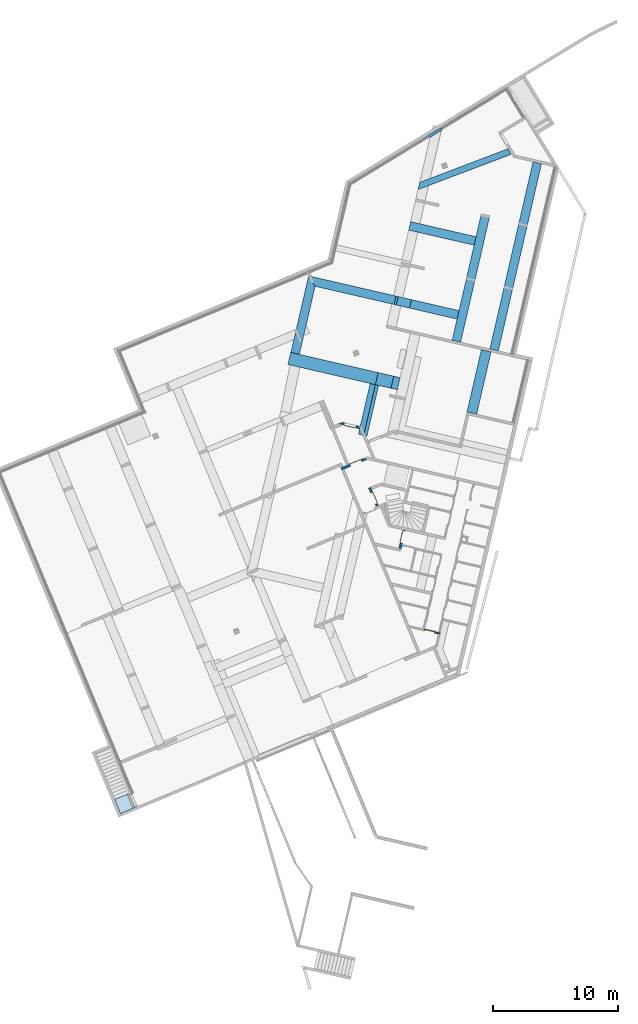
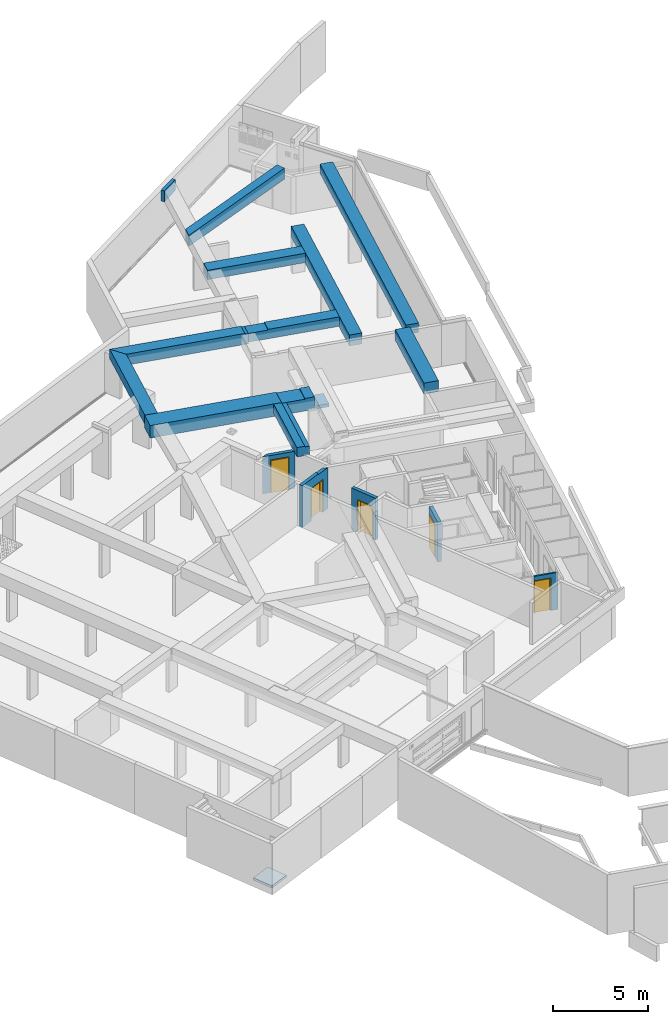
# One storey, part 1 of 20: 11 beams, 5 doors, 5 walls, 1 slab, 5 openings.
"""IFC2X3 building model written with IfcOpenShell, lengths in metres."""

from ifc_helpers import new_model, entity, si_unit, converted_unit, derived_unit, money_unit, direction, frame, origin_with_axes, place, context, subcontext, project, spatial, faceted_brep, source, transform, mapped, material, type_object, element, fill, save


model = new_model("IFC2X3")

# Units and contexts
model_context = context("Model", 3, precision=1e-05, world=origin_with_axes(), true_north=direction((0.0, 1.0)))
body_context = subcontext(model_context, "Body", "Model", "MODEL_VIEW")
ifc_project = project(units=[si_unit("LENGTHUNIT", "METRE"), si_unit("AREAUNIT", "SQUARE_METRE"), si_unit("VOLUMEUNIT", "CUBIC_METRE"), converted_unit("PLANEANGLEUNIT", "DEGREE", entity("IfcPlaneAngleMeasure", 0.0174532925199), si_unit("PLANEANGLEUNIT", "RADIAN"), dimensions=[0, 0, 0, 0, 0, 0, 0]), si_unit("SOLIDANGLEUNIT", "STERADIAN"), money_unit("EUR"), converted_unit("TIMEUNIT", "Year", entity("IfcTimeMeasure", 31556926.0), si_unit("TIMEUNIT", "SECOND"), dimensions=[0, 0, 1, 0, 0, 0, 0]), si_unit("MASSUNIT", "GRAM", prefix="KILO"), si_unit("THERMODYNAMICTEMPERATUREUNIT", "DEGREE_CELSIUS"), si_unit("LUMINOUSINTENSITYUNIT", "LUMEN"), si_unit("ENERGYUNIT", "JOULE", prefix="MEGA"), derived_unit("THERMALCONDUCTANCEUNIT", [(si_unit("POWERUNIT", "WATT"), 1), (si_unit("LENGTHUNIT", "METRE"), -1), (si_unit("THERMODYNAMICTEMPERATUREUNIT", "KELVIN"), -1)]), derived_unit("SPECIFICHEATCAPACITYUNIT", [(si_unit("ENERGYUNIT", "JOULE"), 1), (si_unit("MASSUNIT", "GRAM", prefix="KILO"), -1), (si_unit("THERMODYNAMICTEMPERATUREUNIT", "KELVIN"), -1)]), derived_unit("MASSDENSITYUNIT", [(si_unit("MASSUNIT", "GRAM", prefix="KILO"), 1), (si_unit("VOLUMEUNIT", "CUBIC_METRE"), -1)])], contexts=[model_context])

# Site, building, storey
site_placement = place(None, origin_with_axes())
site = spatial("IfcSite", under=ifc_project, at=site_placement, Name="Site", CompositionType="ELEMENT")
building_placement = place(site_placement, origin_with_axes())
building = spatial("IfcBuilding", under=site, at=building_placement, Name="Bâtiment", CompositionType="ELEMENT")
storey_placement = place(building_placement, frame((0.0, 0.0, -2.9), z_axis=(0.0, 0.0, 1.0), x_axis=(1.0, 0.0, 0.0)))
storey = spatial("IfcBuildingStorey", under=building, at=storey_placement, Name="Sous-sol", CompositionType="ELEMENT", Elevation=-2.9)

# Beams
ifc_material_1 = material(Name="Béton")
beam_type_1 = type_object("IfcBeamType", Name="Béton 700 x 700", PredefinedType="BEAM")
beam_1_placement = place(storey_placement, frame((-1.43509229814, 15.571520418, 2.9), z_axis=(0.0, 0.0, 1.0), x_axis=(-0.974387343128, 0.224876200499, 0.0)))
element("IfcBeam", 1, at=beam_1_placement, inside=storey, type_object=beam_type_1, material=ifc_material_1, Name="PoBA-002", ObjectType="BEAM", context=body_context, shape_type="Brep", body=[
    faceted_brep([(0.35, 10.4069999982, -0.7), (0.35, 0.0, -0.7), (-0.35, 0.0, -0.7), (-0.35, 10.4069999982, -0.7), (0.35, 10.4069999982, 0.0), (0.35, 0.0, 0.0), (-0.35, 0.0, 0.0), (-0.35, 10.4069999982, 0.0)], [[[0, 1, 2, 3]], [[4, 5, 1, 0]], [[1, 5, 6, 2]], [[3, 2, 6, 7]], [[7, 4, 0, 3]], [[7, 6, 5, 4]]]),
])
beam_2_placement = place(storey_placement, frame((-15.3704255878, 10.258411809, 2.9), z_axis=(0.0, 0.0, 1.0), x_axis=(-0.224876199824, -0.974387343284, 0.0)))
element("IfcBeam", 2, at=beam_2_placement, inside=storey, type_object=beam_type_1, material=ifc_material_1, Name="PoBA-002", ObjectType="BEAM", context=body_context, shape_type="Brep", body=[
    faceted_brep([(-0.35, -0.349999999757, 0.0), (-0.35, 6.84643540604, 0.0), (-0.35, 6.84643540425, -0.045), (-0.35, 7.03143540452, -0.045), (-0.35, 7.03143540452, -0.7), (-0.35, -0.349999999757, -0.7), (0.35, 0.349999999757, 0.0), (0.35, 6.84643540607, 0.0), (0.35, 6.84643540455, -0.045), (0.35, 7.03143540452, -0.045), (0.35, 7.03143540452, -0.7), (0.35, 0.349999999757, -0.7)], [[[0, 1, 2, 3, 4, 5]], [[6, 7, 1, 0]], [[8, 2, 1, 7]], [[8, 9, 3, 2]], [[4, 3, 9, 10]], [[11, 5, 4, 10]], [[6, 0, 5, 11]], [[9, 8, 7, 6, 11, 10]]]),
])
beam_type_2 = type_object("IfcBeamType", Name="Béton 700 x 600", PredefinedType="BEAM")
beam_3_placement = place(storey_placement, frame((2.7107983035, 19.7461311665, 2.9), z_axis=(0.0, 0.0, 1.0), x_axis=(-0.974387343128, 0.224876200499, 0.0)))
element("IfcBeam", 3, at=beam_3_placement, inside=storey, type_object=beam_type_2, material=ifc_material_1, Name="PoBA-002", ObjectType="BEAM", context=body_context, shape_type="Brep", body=[
    faceted_brep([(0.35, 15.4070000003, -0.6), (0.35, 0.0, -0.6), (-0.35, 0.0, -0.6), (-0.35, 15.4070000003, -0.6), (0.35, 15.4070000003, 0.0), (0.35, 0.0, 0.0), (-0.35, 0.0, 0.0), (-0.35, 15.4070000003, 0.0)], [[[0, 1, 2, 3]], [[4, 5, 1, 0]], [[1, 5, 6, 2]], [[3, 2, 6, 7]], [[7, 4, 0, 3]], [[7, 6, 5, 4]]]),
])
beam_4_placement = place(storey_placement, frame((-10.2428967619, 2.45279508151, 2.9), z_axis=(0.0, 0.0, 1.0), x_axis=(-0.974387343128, 0.224876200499, 0.0)))
element("IfcBeam", 4, at=beam_4_placement, inside=storey, type_object=beam_type_2, material=ifc_material_1, Name="PoBA-002", ObjectType="BEAM", context=body_context, shape_type="Brep", body=[
    faceted_brep([(0.35, 0.500000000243, 0.0), (-0.0849387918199, 0.499999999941, 0.0), (-0.0849387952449, 0.499999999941, -0.045), (-0.35, 0.499999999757, -0.045), (-0.35, 0.499999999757, -0.6), (0.35, 0.500000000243, -0.6), (0.35, 4.66955193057, 0.0), (-0.0849387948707, 4.66955193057, 0.0), (-0.0849387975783, 4.66955193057, -0.045), (-0.35, 4.66955193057, -0.045), (-0.35, 4.66955193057, -0.6), (0.35, 4.66955193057, -0.6)], [[[0, 1, 2, 3, 4, 5]], [[6, 7, 1, 0]], [[8, 2, 1, 7]], [[8, 9, 3, 2]], [[4, 3, 9, 10]], [[10, 11, 5, 4]], [[11, 6, 0, 5]], [[9, 8, 7, 6, 11, 10]]]),
])
beam_5_placement = place(storey_placement, frame((-15.3704255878, 10.258411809, 2.9), z_axis=(0.0, 0.0, 1.0), x_axis=(-0.974387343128, 0.224876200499, 0.0)))
element("IfcBeam", 5, at=beam_5_placement, inside=storey, type_object=beam_type_2, material=ifc_material_1, Name="PoBA-002", ObjectType="BEAM", context=body_context, shape_type="Brep", body=[
    faceted_brep([(0.35, 5.9526349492, -0.6), (0.35, 4.30349230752, -0.6), (-0.166172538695, 5.02654640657, -0.6), (-0.328950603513, 4.91034269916, -0.6), (0.310169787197, 4.01506334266, -0.6), (0.35, 4.04349726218, -0.6), (0.35, -0.349999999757, -0.6), (-0.35, 0.349999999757, -0.6), (-0.35, 5.95263494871, -0.6), (0.35, 4.04349726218, -0.45), (0.35, 4.30349230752, -0.45), (0.35, 5.9526349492, 0.0), (0.35, -0.349999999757, 0.0), (-0.166172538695, 5.02654640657, -0.45), (-0.328950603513, 4.91034269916, -0.45), (0.310169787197, 4.01506334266, -0.45), (-0.35, 0.349999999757, 0.0), (-0.35, 5.95263494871, 0.0)], [[[0, 1, 2, 3, 4, 5, 6, 7, 8]], [[9, 10, 1, 0, 11, 12, 6, 5]], [[13, 2, 1, 10]], [[14, 3, 2, 13]], [[15, 4, 3, 14]], [[9, 5, 4, 15]], [[16, 7, 6, 12]], [[8, 7, 16, 17]], [[17, 11, 0, 8]], [[13, 10, 9, 15, 14]], [[17, 16, 12, 11]]]),
])
beam_6_placement = place(storey_placement, frame((-8.51908392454, 8.67720933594, 2.9), z_axis=(0.0, 0.0, 1.0), x_axis=(-0.224876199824, -0.974387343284, 0.0)))
element("IfcBeam", 6, at=beam_6_placement, inside=storey, type_object=beam_type_2, material=ifc_material_1, Name="PoBA-002", ObjectType="BEAM", context=body_context, shape_type="Brep", body=[
    faceted_brep([(-0.35, 0.0, -0.6), (-0.35, 0.0, -0.045), (-0.35, 1.08784116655, -0.045), (-0.35, 1.08784116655, 0.0), (-0.35, 5.00218529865, 0.0), (-0.35, 5.00218529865, -0.23), (-0.35, 0.373393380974, -0.23), (-0.35, 0.373393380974, -0.35), (-0.35, 5.00218529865, -0.35), (-0.35, 5.00218529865, -0.6), (0.35, 0.0, -0.6), (0.35, 0.0, -0.045), (0.35, 1.08748749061, -0.045), (0.35, 1.08748749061, 0.0), (0.35, 5.00218529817, 0.0), (0.35, 5.00218529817, -0.6), (-0.346956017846, 0.373393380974, -0.23), (-0.346956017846, 0.373393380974, -0.35)], [[[0, 1, 2, 3, 4, 5, 6, 7, 8, 9]], [[10, 11, 1, 0]], [[12, 2, 1, 11]], [[12, 13, 3, 2]], [[4, 3, 13, 14]], [[9, 8, 5, 4, 14, 15]], [[16, 6, 5]], [[17, 7, 6, 16]], [[17, 8, 7]], [[10, 0, 9, 15]], [[13, 12, 11, 10, 15, 14]], [[8, 17, 16, 5]]]),
])
beam_7_placement = place(storey_placement, frame((-7.15173049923, 14.6019442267, 2.9), z_axis=(0.0, 0.0, 1.0), x_axis=(-0.224876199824, -0.974387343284, 0.0)))
element("IfcBeam", 7, at=beam_7_placement, inside=storey, type_object=beam_type_2, material=ifc_material_1, Name="PoBA-002", ObjectType="BEAM", context=body_context, shape_type="Brep", body=[
    faceted_brep([(-0.35, -0.375000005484, 0.0), (0.35, -0.375000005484, 0.0), (0.35, 5.00218529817, 0.0), (-0.35, 5.00218529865, 0.0), (-0.35, -0.375000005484, -0.6), (0.35, -0.375000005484, -0.6), (0.35, 5.00218529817, -0.6), (-0.35, 5.00218529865, -0.6)], [[[0, 1, 2, 3]], [[4, 5, 1, 0]], [[1, 5, 6, 2]], [[2, 6, 7, 3]], [[4, 0, 3, 7]], [[5, 4, 7, 6]]]),
])
beam_type_3 = type_object("IfcBeamType", Name="Béton 800 x 700", PredefinedType="BEAM")
beam_8_placement = place(storey_placement, frame((-1.38195676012, 4.67344277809, 2.9), z_axis=(0.0, 0.0, 1.0), x_axis=(-0.974387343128, 0.224876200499, 0.0)))
element("IfcBeam", 8, at=beam_8_placement, inside=storey, type_object=beam_type_3, material=ifc_material_1, Name="PoBA-002", ObjectType="BEAM", context=body_context, shape_type="Brep", body=[
    faceted_brep([(0.4, 0.0, -0.7), (-0.4, 0.0, -0.7), (-0.4, 5.13800001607, -0.7), (0.4, 5.13800001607, -0.7), (0.4, 0.0, 0.0), (-0.4, 0.0, 0.0), (-0.4, 5.13800001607, 0.0), (0.4, 5.13800001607, 0.0)], [[[0, 1, 2, 3]], [[4, 5, 1, 0]], [[1, 5, 6, 2]], [[7, 3, 2, 6]], [[4, 0, 3, 7]], [[5, 4, 7, 6]]]),
])
beam_type_4 = type_object("IfcBeamType", Name="Béton 500 x 700", PredefinedType="BEAM")
beam_9_placement = place(storey_placement, frame((0.484366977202, 20.6535473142, 2.9), z_axis=(0.0, 0.0, 1.0), x_axis=(-0.355795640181, 0.934563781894, 0.0)))
element("IfcBeam", 9, at=beam_9_placement, inside=storey, type_object=beam_type_4, material=ifc_material_1, Name="PoBA-002", ObjectType="BEAM", context=body_context, shape_type="Brep", body=[
    faceted_brep([(0.25, 0.0, 0.0), (0.25, 0.0, -0.7), (0.25, 7.60331551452, -0.7), (0.25, 7.60331551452, -6.70553118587e-09), (-0.25, 0.0, 0.0), (-0.25, 0.0, -0.7), (-0.24999999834, 7.93851442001, -0.7), (-0.24999999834, 7.93851442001, -6.70553118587e-09)], [[[0, 1, 2, 3]], [[1, 0, 4, 5]], [[1, 5, 6, 2]], [[2, 6, 7, 3]], [[4, 0, 3, 7]], [[5, 4, 7, 6]]]),
])
beam_type_5 = type_object("IfcBeamType", Name="Béton 1000 x 800", PredefinedType="BEAM")
beam_10_placement = place(storey_placement, frame((-17.1773083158, 4.05316902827, 2.9), z_axis=(0.0, 0.0, 1.0), x_axis=(-0.224876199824, -0.974387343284, 0.0)))
element("IfcBeam", 10, at=beam_10_placement, inside=storey, type_object=beam_type_5, material=ifc_material_1, Name="PoBA-002", ObjectType="BEAM", context=body_context, shape_type="Brep", body=[
    faceted_brep([(-0.5, 7.2016276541, 0.0), (-0.5, 7.2016276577, -0.045), (-0.5, 8.48201816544, -0.045), (-0.5, 8.48201816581, 0.0), (-0.5, 9.00262956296, 0.0), (-0.5, 9.00262956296, -0.6), (-0.5, 9.80262956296, -0.6), (-0.5, 9.80262956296, -0.8), (-0.5, 0.0, -0.8), (-0.5, 0.0, 0.0), (0.5, 7.20162765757, -0.045), (0.5, 7.20162765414, 0.0), (0.5, 8.48201816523, -0.045), (0.5, 8.48201816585, 0.0), (0.5, 9.00262956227, 0.0), (0.5, 9.00262956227, -0.6), (0.5, 9.80262956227, -0.6), (0.5, 9.80262956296, -0.8), (0.5, 0.0, -0.8), (0.5, 0.0, 0.0)], [[[0, 1, 2, 3, 4, 5, 6, 7, 8, 9]], [[10, 1, 0, 11]], [[12, 2, 1, 10]], [[12, 13, 3, 2]], [[4, 3, 13, 14]], [[14, 15, 5, 4]], [[5, 15, 16, 6]], [[17, 7, 6, 16]], [[7, 17, 18, 8]], [[8, 18, 19, 9]], [[19, 11, 0, 9]], [[12, 10, 11, 19, 18, 17, 16, 15, 14, 13]]]),
])
beam_type_6 = type_object("IfcBeamType", Name="Béton 200 x 700", PredefinedType="BEAM")
beam_11_placement = place(storey_placement, frame((-5.97868869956, 21.8398469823, 2.9), z_axis=(0.0, 0.0, 1.0), x_axis=(0.519386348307, -0.854539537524, 0.0)))
element("IfcBeam", 11, at=beam_11_placement, inside=storey, type_object=beam_type_6, material=ifc_material_1, Name="PoBA-002", ObjectType="BEAM", context=body_context, shape_type="Brep", body=[
    faceted_brep([(0.1, 1.19735096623, -0.35), (0.1, 1.11377717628, -0.35), (0.1, 1.11377717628, -0.23), (0.1, 1.19735096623, -0.23), (0.1, 1.19735096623, 0.0), (0.1, 0.0, 0.0), (0.1, 0.0, -0.7), (0.1, 1.19735096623, -0.7), (0.0146449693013, 1.19735096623, -0.35), (0.0146449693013, 1.19735096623, -0.23), (-0.1, 1.19735096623, -0.7), (-0.1, 1.19735096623, 0.0), (-0.1, 0.0, 0.0), (-0.1, 0.0, -0.7)], [[[0, 1, 2, 3, 4, 5, 6, 7]], [[8, 1, 0]], [[1, 8, 9, 2]], [[2, 9, 3]], [[9, 8, 0, 7, 10, 11, 4, 3]], [[12, 5, 4, 11]], [[5, 12, 13, 6]], [[6, 13, 10, 7]], [[13, 12, 11, 10]]]),
])

# Slab
ifc_material_2 = material(Name="Béton DALLAGE")
slab_type = type_object("IfcSlabType", Name="Béton DALLAGE 150", PredefinedType="FLOOR")
slab_placement = place(storey_placement, frame((-30.7179525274, -32.4523621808, 0.0), z_axis=(0.0, 0.0, 1.0), x_axis=(1.0, 0.0, 0.0)))
element("IfcSlab", 12, at=slab_placement, inside=storey, type_object=slab_type, material=ifc_material_2, Name="Dalle_002", PredefinedType="FLOOR", context=body_context, shape_type="Brep", body=[
    faceted_brep([(0.0, 0.0, 0.0), (0.0, 0.0, -0.15), (1.15462708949, 0.478890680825, -0.15), (1.15462708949, 0.478890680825, 0.0), (-0.472656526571, 1.13959626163, 0.0), (-0.472656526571, 1.13959626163, -0.15), (0.681970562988, 1.61848694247, -0.15), (0.681970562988, 1.61848694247, 0.0)], [[[0, 1, 2, 3]], [[4, 5, 1, 0]], [[2, 1, 5, 6]], [[3, 2, 6, 7]], [[4, 0, 3, 7]], [[7, 6, 5, 4]]]),
])

# Wall, opening, door
wall_type_1 = type_object("IfcWallType", Name="Béton 200", PredefinedType="USERDEFINED")
wall_1_placement = place(storey_placement, frame((-10.9175972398, -4.04627237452, 0.0), z_axis=(0.0, 0.0, 1.0), x_axis=(-0.923701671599, -0.383112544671, 0.0)))
wall_1 = element("IfcWall", 13, at=wall_1_placement, inside=storey, type_object=wall_type_1, material=ifc_material_1, Name="M_Ext-007", ObjectType="SOLIDWALL", context=body_context, shape_type="Brep", body=[
    faceted_brep([(1.47348889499, 0.0, 0.0), (1.47348889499, 0.0, 2.085), (0.453488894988, 0.0, 2.085), (0.453488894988, 0.0, 0.0), (0.0, 0.0, 0.0), (0.0, 0.0, 2.62), (0.87128102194, 0.0, 2.62), (0.871281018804, 0.0, 2.67), (2.2199999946, 0.0, 2.67), (2.2199999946, 0.0, 0.0), (1.47348889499, -0.2, 0.0), (1.47348889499, -0.2, 2.085), (0.453488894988, -0.2, 2.085), (0.453488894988, -0.2, 0.0), (0.280159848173, -0.2, 0.0), (0.280159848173, -0.2, 2.62), (0.728505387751, -0.2, 2.62), (0.728505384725, -0.2, 2.67), (2.2199999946, -0.2, 2.67), (2.2199999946, -0.2, 0.0)], [[[0, 1, 2, 3, 4, 5, 6, 7, 8, 9]], [[1, 0, 10, 11]], [[2, 1, 11, 12]], [[3, 2, 12, 13]], [[3, 13, 14, 4]], [[15, 5, 4, 14]], [[6, 5, 15, 16]], [[16, 17, 7, 6]], [[7, 17, 18, 8]], [[8, 18, 19, 9]], [[10, 0, 9, 19]], [[11, 10, 19, 18, 17, 16, 15, 14, 13, 12]]]),
])
opening_1_placement = place(wall_1_placement, frame((0.963488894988, 0.0, 0.0), z_axis=(0.0, 0.0, 1.0), x_axis=(1.0, 0.0, 0.0)))
opening_1 = element("IfcOpeningElement", 14, at=opening_1_placement, cuts=wall_1, Name="Porte 93x204 bois CF", context=body_context, shape_type="Brep", body=[
    faceted_brep([(0.51, -0.2, 0.0), (-0.51, -0.2, 0.0), (-0.51, 0.2, 0.0), (0.51, 0.2, 0.0), (0.51, -0.2, 2.085), (-0.51, -0.2, 2.085), (-0.51, 0.2, 2.085), (0.51, 0.2, 2.085)], [[[0, 1, 2, 3]], [[0, 4, 5, 1]], [[1, 5, 6, 2]], [[3, 2, 6, 7]], [[4, 0, 3, 7]], [[5, 4, 7, 6]]]),
])
door_style_1 = type_object("IfcDoorStyle", Name="Porte int générique 2019", ConstructionType="NOTDEFINED", OperationType="SINGLE_SWING_LEFT", ParameterTakesPrecedence=False, Sizeable=False)
shared_shape_1 = source(origin_with_axes(), body_context, "Body", "Brep", [
    faceted_brep([(-0.51, 0.0, 0.0), (-0.51, 0.0, 2.085), (0.51, 0.0, 2.085), (0.51, 0.0, 0.0), (0.48, 0.0, 0.0), (0.48, 0.0, 2.055), (-0.48, 0.0, 2.055), (-0.48, 0.0, 0.0), (-0.51, -0.2, 0.0), (-0.51, -0.2, 2.085), (0.51, -0.2, 2.085), (0.51, -0.2, 0.0), (0.48, -0.2, 0.0), (0.48, -0.045, 0.0), (0.465, -0.045, 0.0), (0.465, -0.015, 0.0), (0.48, -0.015, 0.0), (0.48, -0.015, 2.055), (-0.48, -0.015, 2.055), (-0.48, -0.015, 0.0), (-0.465, -0.015, 0.0), (-0.465, -0.045, 0.0), (-0.48, -0.045, 0.0), (-0.48, -0.2, 0.0), (-0.48, -0.2, 2.055), (0.48, -0.2, 2.055), (0.48, -0.045, 2.055), (-0.465, -0.045, 2.04), (0.465, -0.045, 2.04), (-0.48, -0.045, 2.055), (0.465, -0.015, 2.04), (-0.465, -0.015, 2.04)], [[[0, 1, 2, 3, 4, 5, 6, 7]], [[8, 9, 1, 0]], [[9, 10, 2, 1]], [[10, 11, 3, 2]], [[3, 11, 12, 13, 14, 15, 16, 4]], [[5, 4, 16, 17]], [[6, 5, 17, 18]], [[7, 6, 18, 19]], [[0, 7, 19, 20, 21, 22, 23, 8]], [[23, 24, 25, 12, 11, 10, 9, 8]], [[26, 13, 12, 25]], [[21, 27, 28, 14, 13, 26, 29, 22]], [[30, 15, 14, 28]], [[19, 18, 17, 16, 15, 30, 31, 20]], [[20, 31, 27, 21]], [[22, 29, 24, 23]], [[29, 26, 25, 24]], [[31, 30, 28, 27]]]),
    faceted_brep([(-0.48, 0.025, 0.0), (0.48, 0.025, 0.0), (0.48, -0.015, 0.0), (-0.48, -0.015, 0.0), (-0.48, 0.025, 2.055), (0.48, 0.025, 2.055), (0.48, -0.015, 2.055), (-0.48, -0.015, 2.055)], [[[0, 1, 2, 3]], [[0, 4, 5, 1]], [[1, 5, 6, 2]], [[3, 2, 6, 7]], [[4, 0, 3, 7]], [[5, 4, 7, 6]]]),
])
door_1_placement = place(opening_1_placement, frame((0.465, 0.0, 0.0), z_axis=(0.0, 0.0, 1.0), x_axis=(-1.0, 0.0, 0.0)))
door_1 = element("IfcDoor", 15, at=door_1_placement, inside=storey, type_object=door_style_1, Name="Porte 93x204 bois CF", ObjectType="DOOR", OverallHeight=2.04, OverallWidth=0.93, context=body_context, shape_type="MappedRepresentation", body=[
    mapped(shared_shape_1, transform((0.465, 0.2, 0.0))),
])
fill(opening_1, door_1)

wall_2_placement = place(storey_placement, frame((-10.2192583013, -7.81815837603, 0.0), z_axis=(0.0, 0.0, 1.0), x_axis=(-0.383112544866, 0.923701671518, 0.0)))
wall_2 = element("IfcWall", 16, at=wall_2_placement, inside=storey, type_object=wall_type_1, material=ifc_material_1, Name="M_Ext-007", ObjectType="SOLIDWALL", context=body_context, shape_type="Brep", body=[
    faceted_brep([(1.18202292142, -0.2, 2.085), (1.18202292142, -0.2, 0.0), (1.59449162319, -0.2, 0.0), (1.59449162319, -0.2, 2.67), (0.0, -0.2, 2.67), (0.0, -0.2, 0.0), (0.162022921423, -0.2, 0.0), (0.162022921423, -0.2, 2.085), (1.18202292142, 0.0, 2.085), (1.18202292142, 0.0, 0.0), (1.59640043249, 0.0, 0.0), (1.59640043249, 0.0, 2.67), (1.51068046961e-10, 0.0, 2.67), (1.51068046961e-10, 0.0, 0.0), (0.162022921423, 0.0, 0.0), (0.162022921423, 0.0, 2.085)], [[[0, 1, 2, 3, 4, 5, 6, 7]], [[1, 0, 8, 9]], [[1, 9, 10, 2]], [[11, 3, 2, 10]], [[3, 11, 12, 4]], [[5, 4, 12, 13]], [[14, 6, 5, 13]], [[7, 6, 14, 15]], [[0, 7, 15, 8]], [[15, 14, 13, 12, 11, 10, 9, 8]]]),
])
opening_2_placement = place(wall_2_placement, frame((0.672022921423, 0.0, 0.0), z_axis=(0.0, 0.0, 1.0), x_axis=(1.0, 0.0, 0.0)))
opening_2 = element("IfcOpeningElement", 17, at=opening_2_placement, cuts=wall_2, Name="Porte 93x204 bois CF", context=body_context, shape_type="Brep", body=[
    faceted_brep([(0.51, -0.2, 0.0), (-0.51, -0.2, 0.0), (-0.51, 0.2, 0.0), (0.51, 0.2, 0.0), (0.51, -0.2, 2.085), (-0.51, -0.2, 2.085), (-0.51, 0.2, 2.085), (0.51, 0.2, 2.085)], [[[0, 1, 2, 3]], [[0, 4, 5, 1]], [[1, 5, 6, 2]], [[3, 2, 6, 7]], [[4, 0, 3, 7]], [[5, 4, 7, 6]]]),
])
shared_shape_2 = source(origin_with_axes(), body_context, "Body", "Brep", [
    faceted_brep([(-0.51, 0.12, 0.0), (-0.51, 0.12, 2.085), (0.51, 0.12, 2.085), (0.51, 0.12, 0.0), (0.48, 0.12, 0.0), (0.48, 0.12, 2.055), (-0.48, 0.12, 2.055), (-0.48, 0.12, 0.0), (-0.51, -0.08, 0.0), (-0.51, -0.08, 2.085), (0.51, -0.08, 2.085), (0.51, -0.08, 0.0), (0.48, -0.08, 0.0), (0.48, 0.075, 0.0), (0.465, 0.075, 0.0), (0.465, 0.105, 0.0), (0.48, 0.105, 0.0), (0.48, 0.105, 2.055), (-0.48, 0.105, 2.055), (-0.48, 0.105, 0.0), (-0.465, 0.105, 0.0), (-0.465, 0.075, 0.0), (-0.48, 0.075, 0.0), (-0.48, -0.08, 0.0), (-0.48, -0.08, 2.055), (0.48, -0.08, 2.055), (0.48, 0.075, 2.055), (-0.465, 0.075, 2.04), (0.465, 0.075, 2.04), (-0.48, 0.075, 2.055), (0.465, 0.105, 2.04), (-0.465, 0.105, 2.04)], [[[0, 1, 2, 3, 4, 5, 6, 7]], [[8, 9, 1, 0]], [[9, 10, 2, 1]], [[10, 11, 3, 2]], [[3, 11, 12, 13, 14, 15, 16, 4]], [[5, 4, 16, 17]], [[6, 5, 17, 18]], [[7, 6, 18, 19]], [[0, 7, 19, 20, 21, 22, 23, 8]], [[23, 24, 25, 12, 11, 10, 9, 8]], [[26, 13, 12, 25]], [[21, 27, 28, 14, 13, 26, 29, 22]], [[30, 15, 14, 28]], [[19, 18, 17, 16, 15, 30, 31, 20]], [[20, 31, 27, 21]], [[22, 29, 24, 23]], [[29, 26, 25, 24]], [[31, 30, 28, 27]]]),
    faceted_brep([(-0.48, 0.145, 0.0), (0.48, 0.145, 0.0), (0.48, 0.105, 0.0), (-0.48, 0.105, 0.0), (-0.48, 0.145, 2.055), (0.48, 0.145, 2.055), (0.48, 0.105, 2.055), (-0.48, 0.105, 2.055)], [[[0, 1, 2, 3]], [[0, 4, 5, 1]], [[1, 5, 6, 2]], [[3, 2, 6, 7]], [[4, 0, 3, 7]], [[5, 4, 7, 6]]]),
])
door_2_placement = place(opening_2_placement, frame((0.465, 0.0, 0.0), z_axis=(0.0, 0.0, 1.0), x_axis=(-1.0, 0.0, 0.0)))
door_2 = element("IfcDoor", 18, at=door_2_placement, inside=storey, type_object=door_style_1, Name="Porte 93x204 bois CF", ObjectType="DOOR", OverallHeight=2.04, OverallWidth=0.93, context=body_context, shape_type="MappedRepresentation", body=[
    mapped(shared_shape_2, transform((0.465, 0.08, 0.0))),
])
fill(opening_2, door_2)

wall_3_placement = place(storey_placement, frame((-12.933670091, -1.06379781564, 0.0), z_axis=(0.0, 0.0, 1.0), x_axis=(0.974387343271, -0.224876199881, 0.0)))
wall_3 = element("IfcWall", 19, at=wall_3_placement, inside=storey, type_object=wall_type_1, material=ifc_material_1, Name="M_Ext-007", ObjectType="SOLIDWALL", context=body_context, shape_type="Brep", body=[
    faceted_brep([(0.164063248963, 0.0, 2.085), (0.164063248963, 0.0, 0.0), (0.0, 0.0, 0.0), (0.0, 0.0, 2.37), (1.37564781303, 0.0, 2.37), (1.37564781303, 0.0, 0.0), (1.18406324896, 0.0, 0.0), (1.18406324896, 0.0, 2.085), (0.164063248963, -0.2, 2.085), (0.164063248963, -0.2, 0.0), (-0.280159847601, -0.2, 0.0), (-0.280159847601, -0.2, 2.37), (1.48105742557, -0.2, 2.37), (1.4810574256, -0.147657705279, 2.37), (1.4810574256, -0.147657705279, 2.3), (1.51842344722, -0.2, 2.3), (1.51842344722, -0.2, 0.0), (1.18406324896, -0.2, 0.0), (1.18406324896, -0.2, 2.085), (1.48105742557, -0.2, 2.3)], [[[0, 1, 2, 3, 4, 5, 6, 7]], [[1, 0, 8, 9]], [[1, 9, 10, 2]], [[11, 3, 2, 10]], [[3, 11, 12, 13, 4]], [[5, 4, 13, 14, 15, 16]], [[17, 6, 5, 16]], [[7, 6, 17, 18]], [[0, 7, 18, 8]], [[18, 17, 16, 15, 19, 12, 11, 10, 9, 8]], [[12, 19, 14, 13]], [[15, 14, 19]]]),
])
opening_3_placement = place(wall_3_placement, frame((0.674063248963, 0.0, 0.0), z_axis=(0.0, 0.0, 1.0), x_axis=(1.0, 0.0, 0.0)))
opening_3 = element("IfcOpeningElement", 20, at=opening_3_placement, cuts=wall_3, Name="Porte 93x204 bois CF", context=body_context, shape_type="Brep", body=[
    faceted_brep([(-0.51, 0.2, 0.0), (0.51, 0.2, 0.0), (0.51, -0.2, 0.0), (-0.51, -0.2, 0.0), (-0.51, 0.2, 2.085), (0.51, 0.2, 2.085), (0.51, -0.2, 2.085), (-0.51, -0.2, 2.085)], [[[0, 1, 2, 3]], [[0, 4, 5, 1]], [[1, 5, 6, 2]], [[3, 2, 6, 7]], [[4, 0, 3, 7]], [[5, 4, 7, 6]]]),
])
door_style_2 = type_object("IfcDoorStyle", Name="Porte int générique 2019", ConstructionType="NOTDEFINED", OperationType="SINGLE_SWING_RIGHT", ParameterTakesPrecedence=False, Sizeable=False)
shared_shape_3 = source(origin_with_axes(), body_context, "Body", "Brep", [
    faceted_brep([(0.51, 0.12, 0.0), (0.48, 0.12, 0.0), (0.48, 0.12, 2.055), (-0.48, 0.12, 2.055), (-0.48, 0.12, 0.0), (-0.51, 0.12, 0.0), (-0.51, 0.12, 2.085), (0.51, 0.12, 2.085), (0.51, -0.08, 0.0), (0.48, -0.08, 0.0), (0.48, 0.075, 0.0), (0.465, 0.075, 0.0), (0.465, 0.105, 0.0), (0.48, 0.105, 0.0), (0.48, 0.105, 2.055), (-0.48, 0.105, 2.055), (-0.48, 0.105, 0.0), (-0.465, 0.105, 0.0), (-0.465, 0.075, 0.0), (-0.48, 0.075, 0.0), (-0.48, -0.08, 0.0), (-0.51, -0.08, 0.0), (-0.51, -0.08, 2.085), (0.51, -0.08, 2.085), (-0.48, -0.08, 2.055), (0.48, -0.08, 2.055), (0.48, 0.075, 2.055), (-0.48, 0.075, 2.055), (-0.465, 0.075, 2.04), (0.465, 0.075, 2.04), (0.465, 0.105, 2.04), (-0.465, 0.105, 2.04)], [[[0, 1, 2, 3, 4, 5, 6, 7]], [[0, 8, 9, 10, 11, 12, 13, 1]], [[1, 13, 14, 2]], [[2, 14, 15, 3]], [[3, 15, 16, 4]], [[5, 4, 16, 17, 18, 19, 20, 21]], [[22, 6, 5, 21]], [[23, 7, 6, 22]], [[8, 0, 7, 23]], [[9, 8, 23, 22, 21, 20, 24, 25]], [[10, 9, 25, 26]], [[11, 10, 26, 27, 19, 18, 28, 29]], [[12, 11, 29, 30]], [[13, 12, 30, 31, 17, 16, 15, 14]], [[31, 28, 18, 17]], [[27, 24, 20, 19]], [[26, 25, 24, 27]], [[30, 29, 28, 31]]]),
    faceted_brep([(0.48, 0.145, 0.0), (0.48, 0.105, 0.0), (-0.48, 0.105, 0.0), (-0.48, 0.145, 0.0), (0.48, 0.145, 2.055), (0.48, 0.105, 2.055), (-0.48, 0.105, 2.055), (-0.48, 0.145, 2.055)], [[[0, 1, 2, 3]], [[4, 5, 1, 0]], [[1, 5, 6, 2]], [[3, 2, 6, 7]], [[0, 3, 7, 4]], [[7, 6, 5, 4]]]),
])
door_3_placement = place(opening_3_placement, frame((0.465, 0.0, 0.0), z_axis=(0.0, 0.0, 1.0), x_axis=(-1.0, 0.0, 0.0)))
door_3 = element("IfcDoor", 21, at=door_3_placement, inside=storey, type_object=door_style_2, Name="Porte 93x204 bois CF", ObjectType="DOOR", OverallHeight=2.04, OverallWidth=0.93, context=body_context, shape_type="MappedRepresentation", body=[
    mapped(shared_shape_3, transform((0.465, 0.08, 0.0))),
])
fill(opening_3, door_3)

wall_4_placement = place(storey_placement, frame((-8.06201881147, -9.69305305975, 0.0), z_axis=(0.0, 0.0, 1.0), x_axis=(-0.224876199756, -0.9743873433, 0.0)))
wall_4 = element("IfcWall", 22, at=wall_4_placement, inside=storey, type_object=wall_type_1, material=ifc_material_1, Name="M_Ext-007", ObjectType="SOLIDWALL", context=body_context, shape_type="Brep", body=[
    faceted_brep([(1.0699999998, 0.2, 0.0), (1.0699999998, 0.2, 2.085), (0.0499999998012, 0.2, 2.085), (0.0499999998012, 0.2, 0.0), (0.0, 0.2, 0.0), (-3.3543496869e-09, 0.2, 2.55), (1.51999999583, 0.2, 2.55), (1.51999999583, 0.2, 0.0), (1.0699999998, 0.0, 0.0), (1.0699999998, 0.0, 2.085), (0.0499999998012, 0.0, 2.085), (0.0499999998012, 0.0, 0.0), (0.0, 0.0, 0.0), (-3.3532465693e-09, 0.0, 2.55), (1.51999999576, 0.0, 2.55), (1.51999999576, 0.0, 0.0)], [[[0, 1, 2, 3, 4, 5, 6, 7]], [[1, 0, 8, 9]], [[2, 1, 9, 10]], [[3, 2, 10, 11]], [[3, 11, 12, 4]], [[13, 5, 4, 12]], [[6, 5, 13, 14]], [[6, 14, 15, 7]], [[8, 0, 7, 15]], [[9, 8, 15, 14, 13, 12, 11, 10]]]),
])
opening_4_placement = place(wall_4_placement, frame((0.559999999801, 0.0, 0.0), z_axis=(0.0, 0.0, 1.0), x_axis=(1.0, 0.0, 0.0)))
opening_4 = element("IfcOpeningElement", 23, at=opening_4_placement, cuts=wall_4, Name="Porte 93x204 bois CF", context=body_context, shape_type="Brep", body=[
    faceted_brep([(-0.51, 0.2, 0.0), (0.51, 0.2, 0.0), (0.51, -0.2, 0.0), (-0.51, -0.2, 0.0), (-0.51, 0.2, 2.085), (0.51, 0.2, 2.085), (0.51, -0.2, 2.085), (-0.51, -0.2, 2.085)], [[[0, 1, 2, 3]], [[0, 4, 5, 1]], [[1, 5, 6, 2]], [[3, 2, 6, 7]], [[4, 0, 3, 7]], [[5, 4, 7, 6]]]),
])
door_4_placement = place(opening_4_placement, frame((0.465, 0.0, 0.0), z_axis=(0.0, 0.0, 1.0), x_axis=(-1.0, 0.0, 0.0)))
door_4 = element("IfcDoor", 24, at=door_4_placement, inside=storey, type_object=door_style_2, Name="Porte 93x204 bois CF", ObjectType="DOOR", OverallHeight=2.04, OverallWidth=0.93, context=body_context, shape_type="MappedRepresentation", body=[
    mapped(shared_shape_3, transform((0.465, -0.12, 0.0))),
])
fill(opening_4, door_4)

ifc_material_3 = material(Name="Parpaing 10cm")
wall_type_2 = type_object("IfcWallType", Name="Parpaing 10cm 100", PredefinedType="USERDEFINED")
wall_5_placement = place(storey_placement, frame((-5.17777820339, -17.9429519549, 0.0), z_axis=(0.0, 0.0, 1.0), x_axis=(-0.974387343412, 0.224876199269, 0.0)))
wall_5 = element("IfcWall", 25, at=wall_5_placement, inside=storey, type_object=wall_type_2, material=ifc_material_3, Name="Parpaing 10x50x20", ObjectType="PARTITIONING", context=body_context, shape_type="Brep", body=[
    faceted_brep([(0.289999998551, 0.0, 2.085), (1.20999999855, 0.0, 2.085), (1.20999999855, 0.0, 2.37), (-0.1, 0.0, 2.37), (-0.1, 0.0, 0.0), (0.289999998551, 0.0, 0.0), (0.289999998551, 0.1, 2.085), (1.20999999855, 0.1, 2.085), (1.20999999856, 0.1, 2.37), (-0.0999999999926, 0.1, 2.37), (-0.0999999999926, 0.1, 0.0), (0.289999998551, 0.1, 0.0)], [[[0, 1, 2, 3, 4, 5]], [[1, 0, 6, 7]], [[1, 7, 8, 2]], [[3, 2, 8, 9]], [[3, 9, 10, 4]], [[11, 5, 4, 10]], [[0, 5, 11, 6]], [[6, 11, 10, 9, 8, 7]]]),
])
opening_5_placement = place(wall_5_placement, frame((0.749999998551, 0.0, 0.0), z_axis=(0.0, 0.0, 1.0), x_axis=(1.0, 0.0, 0.0)))
opening_5 = element("IfcOpeningElement", 26, at=opening_5_placement, cuts=wall_5, Name="Porte 83x204 bois bâti métal", context=body_context, shape_type="Brep", body=[
    faceted_brep([(0.46, -0.1, 0.0), (-0.46, -0.1, 0.0), (-0.46, 0.1, 0.0), (0.46, 0.1, 0.0), (0.46, -0.1, 2.085), (-0.46, -0.1, 2.085), (-0.46, 0.1, 2.085), (0.46, 0.1, 2.085)], [[[0, 1, 2, 3]], [[0, 4, 5, 1]], [[1, 5, 6, 2]], [[3, 2, 6, 7]], [[4, 0, 3, 7]], [[5, 4, 7, 6]]]),
])
shared_shape_4 = source(origin_with_axes(), body_context, "Body", "Brep", [
    faceted_brep([(-0.46, 0.0, 0.0), (-0.46, 0.0, 2.085), (0.46, 0.0, 2.085), (0.46, 0.0, 0.0), (0.43, 0.0, 0.0), (0.43, 0.0, 2.055), (-0.43, 0.0, 2.055), (-0.43, 0.0, 0.0), (-0.46, -0.1, 0.0), (-0.46, -0.1, 2.085), (0.46, -0.1, 2.085), (0.46, -0.1, 0.0), (0.43, -0.1, 0.0), (0.43, -0.045, 0.0), (0.415, -0.045, 0.0), (0.415, -0.015, 0.0), (0.43, -0.015, 0.0), (0.43, -0.015, 2.055), (-0.43, -0.015, 2.055), (-0.43, -0.015, 0.0), (-0.415, -0.015, 0.0), (-0.415, -0.045, 0.0), (-0.43, -0.045, 0.0), (-0.43, -0.1, 0.0), (-0.43, -0.1, 2.055), (0.43, -0.1, 2.055), (0.43, -0.045, 2.055), (-0.415, -0.045, 2.04), (0.415, -0.045, 2.04), (-0.43, -0.045, 2.055), (0.415, -0.015, 2.04), (-0.415, -0.015, 2.04)], [[[0, 1, 2, 3, 4, 5, 6, 7]], [[8, 9, 1, 0]], [[9, 10, 2, 1]], [[10, 11, 3, 2]], [[3, 11, 12, 13, 14, 15, 16, 4]], [[5, 4, 16, 17]], [[6, 5, 17, 18]], [[7, 6, 18, 19]], [[0, 7, 19, 20, 21, 22, 23, 8]], [[23, 24, 25, 12, 11, 10, 9, 8]], [[26, 13, 12, 25]], [[21, 27, 28, 14, 13, 26, 29, 22]], [[30, 15, 14, 28]], [[19, 18, 17, 16, 15, 30, 31, 20]], [[20, 31, 27, 21]], [[22, 29, 24, 23]], [[29, 26, 25, 24]], [[31, 30, 28, 27]]]),
    faceted_brep([(-0.43, 0.025, 0.0), (0.43, 0.025, 0.0), (0.43, -0.015, 0.0), (-0.43, -0.015, 0.0), (-0.43, 0.025, 2.055), (0.43, 0.025, 2.055), (0.43, -0.015, 2.055), (-0.43, -0.015, 2.055)], [[[0, 1, 2, 3]], [[0, 4, 5, 1]], [[1, 5, 6, 2]], [[3, 2, 6, 7]], [[4, 0, 3, 7]], [[5, 4, 7, 6]]]),
])
door_5_placement = place(opening_5_placement, frame((0.415, 0.0, 0.0), z_axis=(0.0, 0.0, 1.0), x_axis=(-1.0, 0.0, 0.0)))
door_5 = element("IfcDoor", 27, at=door_5_placement, inside=storey, type_object=door_style_1, Name="Porte 83x204 bois bâti métal", ObjectType="DOOR", OverallHeight=2.04, OverallWidth=0.83, context=body_context, shape_type="MappedRepresentation", body=[
    mapped(shared_shape_4, transform((0.415, 0.0, 0.0))),
])
fill(opening_5, door_5)

save(model, "model.ifc")
